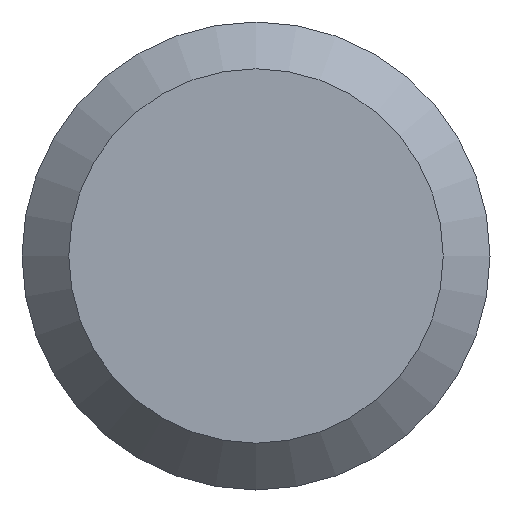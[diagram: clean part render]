
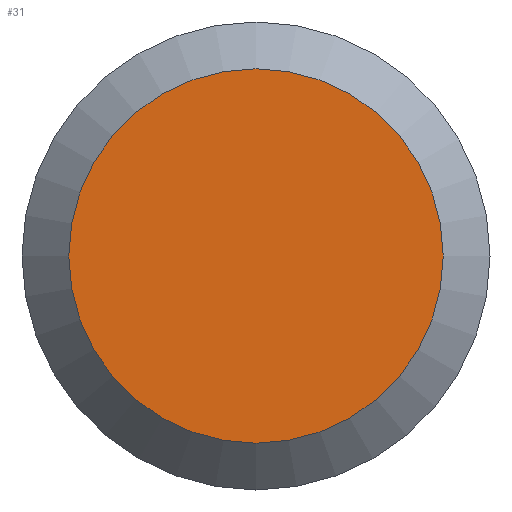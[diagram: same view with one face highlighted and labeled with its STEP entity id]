
A CAD part, left-side view. The second image highlights one B-rep face of the part: STEP entity #31.
In plain terms, the highlighted planar face has unit normal (-1, 0, 0).
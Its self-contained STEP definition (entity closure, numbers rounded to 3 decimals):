
#2 = CARTESIAN_POINT ( 'NONE',  ( 0., 3., 0. ) ) ;
#13 = DIRECTION ( 'NONE',  ( -1., 0., 0. ) ) ;
#15 = CARTESIAN_POINT ( 'NONE',  ( 0., 0., -2.4 ) ) ;
#26 = CIRCLE ( 'NONE', #180, 2.4 ) ;
#28 = EDGE_CURVE ( 'NONE', #86, #86, #26, .T. ) ;
#31 = ADVANCED_FACE ( 'NONE', ( #107 ), #195, .F. ) ;
#86 = VERTEX_POINT ( 'NONE', #15 ) ;
#88 = ORIENTED_EDGE ( 'NONE', *, *, #28, .T. ) ;
#107 = FACE_OUTER_BOUND ( 'NONE', #166, .T. ) ;
#111 = CARTESIAN_POINT ( 'NONE',  ( 0., 0., 0. ) ) ;
#126 = DIRECTION ( 'NONE',  ( 0., 0., -1. ) ) ;
#166 = EDGE_LOOP ( 'NONE', ( #88 ) ) ;
#180 = AXIS2_PLACEMENT_3D ( 'NONE', #111, #13, #126 ) ;
#185 = DIRECTION ( 'NONE',  ( 1., 0., 0. ) ) ;
#191 = AXIS2_PLACEMENT_3D ( 'NONE', #2, #185, #207 ) ;
#195 = PLANE ( 'NONE',  #191 ) ;
#207 = DIRECTION ( 'NONE',  ( 0., 0., -1. ) ) ;
